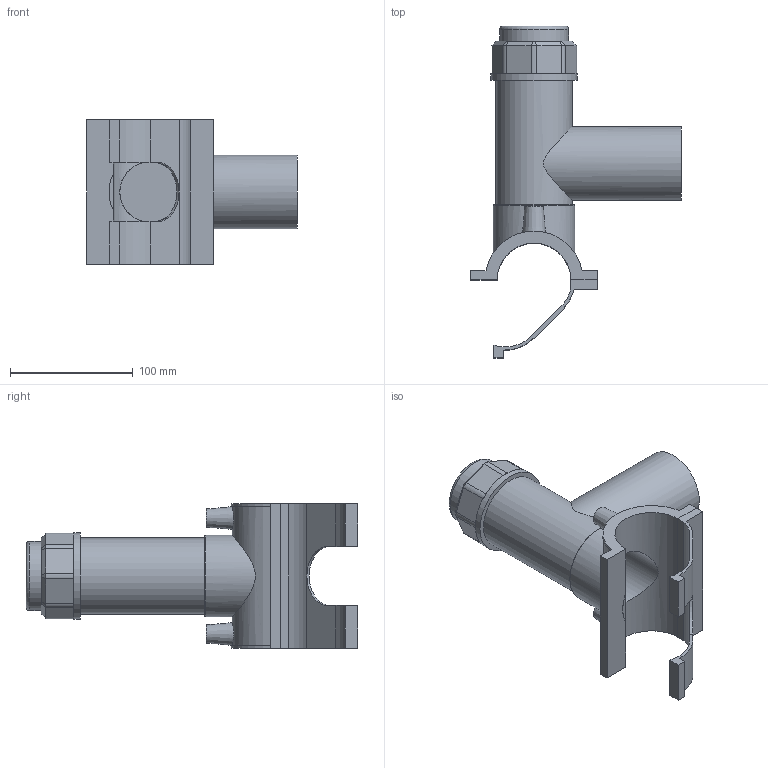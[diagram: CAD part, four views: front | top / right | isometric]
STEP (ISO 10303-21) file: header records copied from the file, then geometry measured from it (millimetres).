
FILE_DESCRIPTION(/* description */ ('PLASSON TAPPING SADDLE 2''''IPS x 2''''IPS'),/* implementation_level */ '2;1');
FILE_NAME(/* name */ 'C:\Dropbox\KIMPROJECTS-Inventor 2019\99-16-3568-Processing Inch\ASTM ElectroFusion 2021\5963B\5963BB03020020.ipt.stp',/* time_stamp */ '2021-08-30T09:55:03+03:00',/* author */ ('KIM'),/* organization */ (''),/* preprocessor_version */ 'ST-DEVELOPER v17.2',/* originating_system */ 'Autodesk Inventor 2019',/* authorisation */ '');
FILE_SCHEMA (('AUTOMOTIVE_DESIGN { 1 0 10303 214 3 1 1 }'));
Length unit declared in the file: millimetre
Products named in the file (1): 5963BB03020020
Bounding box: 171.32 x 270.48 x 118.11 mm (x, y, z)
Volume: 555221.2 mm3; surface area: 149510.9 mm2
Topology: 2 solids, 2 shells, 103 faces, 255 edges, 169 vertices
Faces by surface type: plane 59, cylinder 32, cone 11, torus 1
Full cylindrical faces by diameter (mm): 4 x2, 10 x2, 48.08 x1, 49.222 x1, 56.254 x1, 60.1 x1, 62.068 x1, 66.801 x1, 70.317 x1
Entity records: 3461 total; most frequent: CARTESIAN_POINT 906, DIRECTION 533, ORIENTED_EDGE 510, EDGE_CURVE 255, AXIS2_PLACEMENT_3D 190, VERTEX_POINT 169, LINE 153, VECTOR 153
